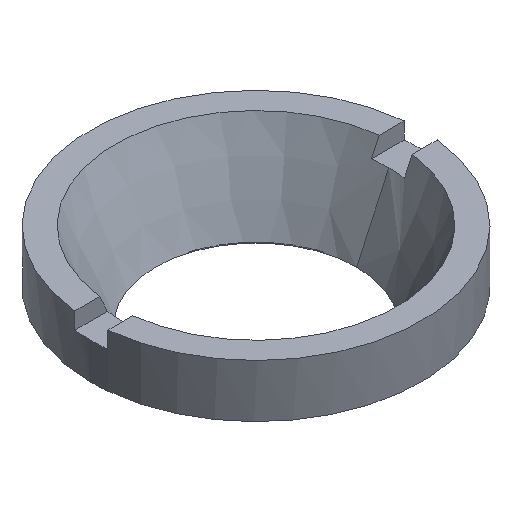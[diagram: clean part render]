
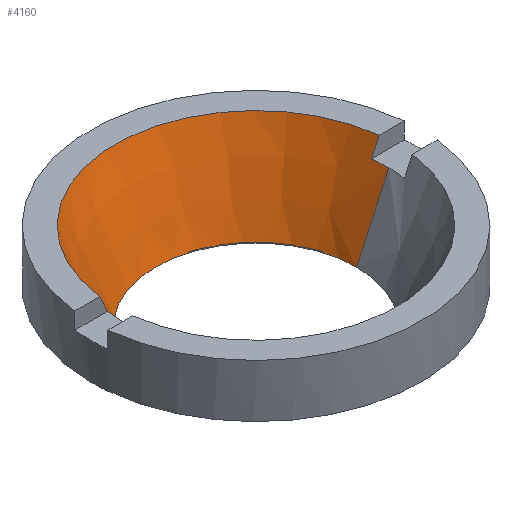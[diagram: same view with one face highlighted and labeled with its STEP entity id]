
A CAD part, isometric view. The second image highlights one B-rep face of the part: STEP entity #4160.
In plain terms, the highlighted conical face has half-angle 25 degrees and reference radius 9.639 mm.
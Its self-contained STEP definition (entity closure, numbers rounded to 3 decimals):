
#210=CARTESIAN_POINT('',(166.533,48.009,-16.294));
#220=VERTEX_POINT('',#210);
#250=CARTESIAN_POINT('',(153.126,46.422,-16.294));
#260=DIRECTION('',(0.,0.,1.));
#270=DIRECTION('',(-1.,0.,0.));
#280=AXIS2_PLACEMENT_3D('',#250,#260,#270);
#290=CIRCLE('',#280,13.501);
#300=CARTESIAN_POINT('',(139.719,48.009,-16.294));
#310=VERTEX_POINT('',#300);
#320=EDGE_CURVE('',#220,#310,#290,.T.);
#670=CARTESIAN_POINT('',(153.126,46.422,-17.894));
#680=DIRECTION('',(0.,0.,1.));
#690=DIRECTION('',(-1.,0.,0.));
#700=AXIS2_PLACEMENT_3D('',#670,#680,#690);
#710=CIRCLE('',#700,12.754);
#720=CARTESIAN_POINT('',(165.88,46.422,-17.894));
#730=VERTEX_POINT('',#720);
#760=CARTESIAN_POINT('',(165.781,48.009,-17.894));
#770=VERTEX_POINT('',#760);
#780=EDGE_CURVE('',#730,#770,#710,.T.);
#1220=CARTESIAN_POINT('',(153.126,46.422,-24.575));
#1230=DIRECTION('',(0.,0.,1.));
#1240=DIRECTION('',(-1.,0.,0.));
#1250=AXIS2_PLACEMENT_3D('',#1220,#1230,#1240);
#1260=CONICAL_SURFACE('',#1250,9.639,0.436);
#1270=CARTESIAN_POINT('',(167.401,48.009,-16.294));
#1280=DIRECTION('',(-0.,1.,0.));
#1290=DIRECTION('',(1.,0.,0.));
#1300=AXIS2_PLACEMENT_3D('',#1270,#1280,#1290);
#1310=PLANE('',#1300);
#1320=CARTESIAN_POINT('',(139.719,48.009,-16.294))
;
#1330=CARTESIAN_POINT('',(139.782,48.009,-16.427));
#1340=CARTESIAN_POINT('',(139.844,48.009,-16.561))
;
#1350=CARTESIAN_POINT('',(139.907,48.009,-16.694))
;
#1360=CARTESIAN_POINT('',(139.97,48.009,-16.828))
;
#1370=CARTESIAN_POINT('',(140.032,48.009,-16.961));
#1380=CARTESIAN_POINT('',(140.095,48.009,-17.094));
#1390=CARTESIAN_POINT('',(140.158,48.009,-17.228))
;
#1400=CARTESIAN_POINT('',(140.22,48.009,-17.361))
;
#1410=CARTESIAN_POINT('',(140.283,48.009,-17.494));
#1420=CARTESIAN_POINT('',(140.346,48.009,-17.628))
;
#1430=CARTESIAN_POINT('',(140.408,48.009,
-17.761));
#1440=CARTESIAN_POINT('',(140.471,48.009,
-17.894));
#1450=B_SPLINE_CURVE_WITH_KNOTS('',3,(#1320,#1330,#1340,#1350,#1360,
#1370,#1380,#1390,#1400,#1410,#1420,#1430,#1440),.UNSPECIFIED.,.F.,.F.,(
4,3,3,3,4),(0.,0.442,0.884,1.326,
1.768),.UNSPECIFIED.);
#1460=SURFACE_CURVE('',#1450,(#1260,#1310),.CURVE_3D.);
#1470=CARTESIAN_POINT('',(140.471,48.009,
-17.894));
#1480=VERTEX_POINT('',#1470);
#1490=EDGE_CURVE('',#310,#1480,#1460,.T.);
#1920=CARTESIAN_POINT('',(153.126,46.422,-24.575));
#1930=DIRECTION('',(0.,0.,1.));
#1940=DIRECTION('',(-1.,0.,0.));
#1950=AXIS2_PLACEMENT_3D('',#1920,#1930,#1940);
#1960=CIRCLE('',#1950,9.639);
#1970=CARTESIAN_POINT('',(162.765,46.422,-24.575));
#1980=VERTEX_POINT('',#1970);
#1990=CARTESIAN_POINT('',(143.487,46.422,-24.575));
#2000=VERTEX_POINT('',#1990);
#2010=EDGE_CURVE('',#1980,#2000,#1960,.T.);
#2380=CARTESIAN_POINT('',(140.372,46.422,-17.894));
#2390=VERTEX_POINT('',#2380);
#2420=CARTESIAN_POINT('',(143.487,46.422,-24.575));
#2430=DIRECTION('',(-0.423,0.,0.906));
#2440=VECTOR('',#2430,22.809);
#2450=LINE('',#2420,#2440);
#2460=EDGE_CURVE('',#2000,#2390,#2450,.T.);
#2490=CARTESIAN_POINT('',(162.765,46.422,-24.575));
#2500=DIRECTION('',(0.423,0.,0.906));
#2510=VECTOR('',#2500,22.809);
#2520=LINE('',#2490,#2510);
#2530=EDGE_CURVE('',#1980,#730,#2520,.T.);
#3180=CARTESIAN_POINT('',(165.781,48.009,-17.894));
#3190=CARTESIAN_POINT('',(165.844,48.009,-17.761));
#3200=CARTESIAN_POINT('',(165.906,48.009,-17.628))
;
#3210=CARTESIAN_POINT('',(165.969,48.009,-17.494))
;
#3220=CARTESIAN_POINT('',(166.032,48.009,-17.361))
;
#3230=CARTESIAN_POINT('',(166.094,48.009,-17.228))
;
#3240=CARTESIAN_POINT('',(166.157,48.009,-17.094))
;
#3250=CARTESIAN_POINT('',(166.22,48.009,-16.961))
;
#3260=CARTESIAN_POINT('',(166.282,48.009,-16.828))
;
#3270=CARTESIAN_POINT('',(166.345,48.009,-16.694))
;
#3280=CARTESIAN_POINT('',(166.408,48.009,-16.561))
;
#3290=CARTESIAN_POINT('',(166.47,48.009,-16.427))
;
#3300=CARTESIAN_POINT('',(166.533,48.009,-16.294))
;
#3310=B_SPLINE_CURVE_WITH_KNOTS('',3,(#3180,#3190,#3200,#3210,#3220,
#3230,#3240,#3250,#3260,#3270,#3280,#3290,#3300),.UNSPECIFIED.,.F.,.F.,(
4,3,3,3,4),(0.,0.442,0.884,1.326,
1.768),.UNSPECIFIED.);
#3320=SURFACE_CURVE('',#3310,(#1260,#1310),.CURVE_3D.);
#3330=EDGE_CURVE('',#770,#220,#3320,.T.);
#3520=EDGE_CURVE('',#1480,#2390,#710,.T.);
#4010=CARTESIAN_POINT('',(153.126,46.422,-24.575));
#4020=DIRECTION('',(0.,0.,1.));
#4030=DIRECTION('',(-1.,0.,0.));
#4040=AXIS2_PLACEMENT_3D('',#4010,#4020,#4030);
#4050=CONICAL_SURFACE('',#4040,9.639,0.436);
#4060=ORIENTED_EDGE('',*,*,#3520,.T.);
#4070=ORIENTED_EDGE('',*,*,#1490,.T.);
#4080=ORIENTED_EDGE('',*,*,#320,.T.);
#4090=ORIENTED_EDGE('',*,*,#3330,.T.);
#4100=ORIENTED_EDGE('',*,*,#780,.T.);
#4110=ORIENTED_EDGE('',*,*,#2530,.T.);
#4120=ORIENTED_EDGE('',*,*,#2010,.F.);
#4130=ORIENTED_EDGE('',*,*,#2460,.F.);
#4140=EDGE_LOOP('',(#4130,#4120,#4110,#4100,#4090,#4080,#4070,#4060));
#4150=FACE_OUTER_BOUND('',#4140,.T.);
#4160=ADVANCED_FACE('',(#4150),#4050,.F.);
